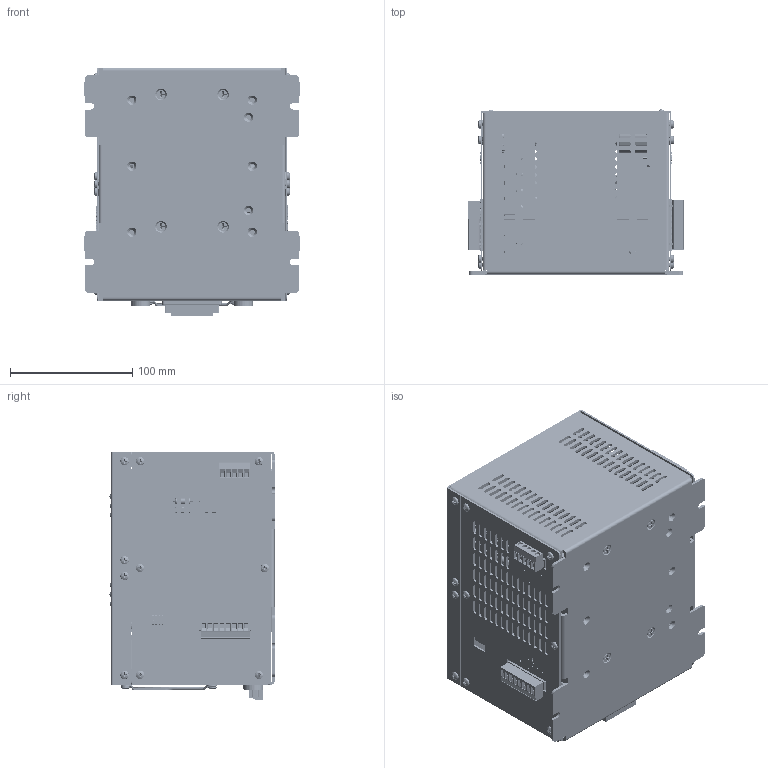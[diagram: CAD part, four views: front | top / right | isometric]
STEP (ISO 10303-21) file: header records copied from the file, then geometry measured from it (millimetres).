
FILE_DESCRIPTION (( 'STEP AP214' ), '1' );
FILE_NAME ('DPN10002.STEP', '2010-08-30T17:27:16', ( 'Tim Raines' ), ( 'Anaheim Automation' ), 'SwSTEP 2.0', 'SolidWorks 2010', '' );
FILE_SCHEMA (( 'AUTOMOTIVE_DESIGN' ));
Length unit declared in the file: inch
Products named in the file (50): FSH-342038L; TRS-IRF540N_; External Tooth Lock Washer_AI_ASME B18.21.1 - 0.195; Transformer, AA3621; 1827774; Flat Washer Type A Narrow_AI_Preferred Narrow FW 0.078; Round Head Screw_AI_CR-RHMS 0.19-32x1.375x1-S; 1829400; LED-RA Series_LED-0005; LED-RA Series_LED-0001; POT-0018; Pan Cross Head_AI_CR-PHMS 0.138-32x0.5625x0.5625-N; DIO-KBU8G_Long pins; LED-RA Series_LED-0002; RES-3W-.05; CAP-0129; Standoff, 6-32x.250, ROUND_6-32 x .188; AA4675APCB; AA4675A-2PCB; Pan Cross Head_AI_CR-PHMS 0.138-32x0.25x0.25-S; Pan Cross Head_AI_CR-PHMS 0.138-32x0.5625x0.5625-S; Standoff, 6-32x.250, ROUND_6-32 x .250; Heat Sink, MBC10641; Internal Tooth-lock Washers_AI_Internal Tooth LW Type A-0.138; Pan Cross Head_AI_CR-PHMS 0.086-56x0.375x0.375-N; Machine Screw Nut Hex_AI_MSHXNUT 0.138-32-D-S; Machine Screw Nut Hex_AI_MSHXNUT 0.164-32-D-S; Internal Tooth-lock Washers_AI_Internal Tooth LW Type A-0.164; Flat Washer Type A Narrow_AI_Preferred Narrow FW 0.164; ICS-LM35DT_; Flat Head Screw_AI_CR-FHMS 0.164-32x0.5x0.5-S; 1754504; 1754562; Mounting Bracket, DPN version MBC10641; 1755545; Pan Cross Head_AI_CR-PHMS 0.138-32x0.375x0.375-S; 1755574; Flat Head Screw_AI_CR-FHMS 0.138-32x0.25x0.25-S; QDS-836; SWT-219-4MST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
Assembly tree (141 placements, depth 3):
  DPN10002
    Transformer, AA3621
    External Tooth Lock Washer_AI_ASME B18.21.1 - 0.195  x4
    AA4675A-2PCB  x2
      Pan Cross Head_AI_CR-PHMS 0.112-40x0.25x0.25-S
      TRS-IRF540N_
      DIO-KBU8G_Long pins
      POT-0018
      RES-3W-.05
      Flat Head Screw_AI_CR-FHMS 0.138-32x0.25x0.25-S
      QDS-836
      Standoff, 6-32x.250, ROUND_6-32 x .250
      WSH-KE3049
      LED-RA Series_LED-0005
      1755545
      SWT-219-4MST
      Pan Cross Head_AI_CR-PHMS 0.138-32x0.5625x0.5625-S
      CAP-0129
      1755574
      Pan Cross Head_AI_CR-PHMS 0.138-32x0.5625x0.5625-N
      Heat Sink, MBC10641
      Standoff, 6-32x.250, ROUND_6-32 x .188
      Pan Cross Head_AI_CR-PHMS 0.138-32x0.375x0.375-S
      LED-RA Series_LED-0002
      ICS-LM35DT_
      LED-RA Series_LED-0001
      AA4675APCB
      Mounting Bracket, DPN version MBC10641
    Machine Screw Nut Hex_AI_MSHXNUT 0.164-32-D-S  x8
    FAN-0003
    Top Plate, DPN10002
    Pan Cross Head_AI_CR-PHMS 0.086-56x0.375x0.375-N  x2
    Machine Screw Nut Hex_AI_MSHXNUT 0.138-32-D-S  x4
    Internal Tooth-lock Washers_AI_Internal Tooth LW Type A-0.138  x4
    1754504  x2
    Pan Cross Head_AI_CR-PHMS 0.138-32x0.25x0.25-S  x20
    Pan Cross Head_AI_CR-PHMS 0.138-32x0.5625x0.5625-S  x4
    Flat Washer Type A Narrow_AI_Preferred Narrow FW 0.164  x4
    Flat Washer Type A Narrow_AI_Preferred Narrow FW 0.078  x4
    FSH-342038L  x2
    Flat Head Screw_AI_CR-FHMS 0.164-32x0.5x0.5-S  x4
    Internal Tooth-lock Washers_AI_Internal Tooth LW Type A-0.164  x4
    Side Plate, Driver, DPN10002, AA4283
    1827774
    1829400
    1754562  x2
    Round Head Screw_AI_CR-RHMS 0.19-32x1.375x1-S  x4
    Side Plate, Driver, DPN10002, AA4299
    Cover Bracket, DPA, DPB, DPN  x2
    FAN-GUARD
    Chassis, DPN10 Series
Bounding box: 177.18 x 134.87 x 203.5 mm (x, y, z)
Volume: 1136302.3 mm3; surface area: 625907 mm2
Topology: 203 solids, 203 shells, 28796 faces, 74838 edges, 48307 vertices
Faces by surface type: plane 14483, bspline 5116, cylinder 5096, cone 3659, torus 288, sphere 154
Entity records: 1042256 total; most frequent: CARTESIAN_POINT 383432, ORIENTED_EDGE 98400, DIRECTION 72211, EDGE_CURVE 49200, LINE 32785, VECTOR 32785, VERTEX_POINT 32338, EDGE_LOOP 21004
